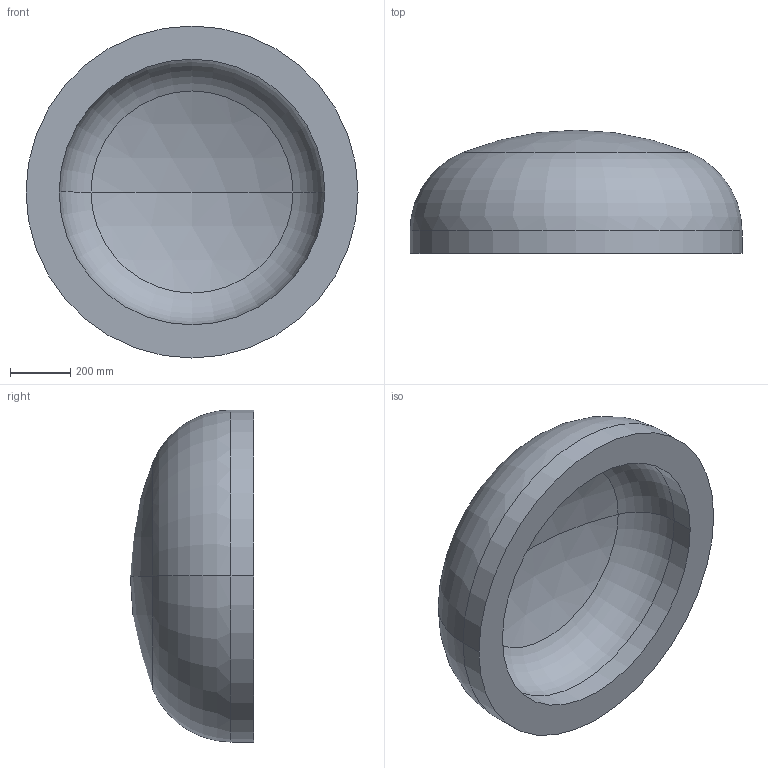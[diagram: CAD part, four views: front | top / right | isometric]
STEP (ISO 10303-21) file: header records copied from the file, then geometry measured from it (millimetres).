
FILE_DESCRIPTION (( 'STEP AP203' ), '1' );
FILE_NAME ('DIN 28013 Korbbogenform_-_Boden DIN 28013 - 1100 x 75 - I - s=110.step', '2016-07-01T09:17:22', ( '' ), ( '' ), 'SwSTEP 2.0', 'SolidWorks 2013', '' );
FILE_SCHEMA (( 'CONFIG_CONTROL_DESIGN' ));
Length unit declared in the file: millimetre
Products named in the file (1): DIN 28013 Korbbogenform_-_Boden DIN 28013 - 1100 x 75 - I - s=110
Bounding box: 1100 x 408.34 x 1100 mm (x, y, z)
Volume: 153685599.8 mm3; surface area: 3161744.8 mm2
Topology: 1 solids, 1 shells, 13 faces, 24 edges, 14 vertices
Faces by surface type: torus 4, cylinder 4, sphere 4, plane 1
Entity records: 407 total; most frequent: DIRECTION 72, CARTESIAN_POINT 52, ORIENTED_EDGE 48, AXIS2_PLACEMENT_3D 34, EDGE_CURVE 24, CIRCLE 20, VERTEX_POINT 14, EDGE_LOOP 14
